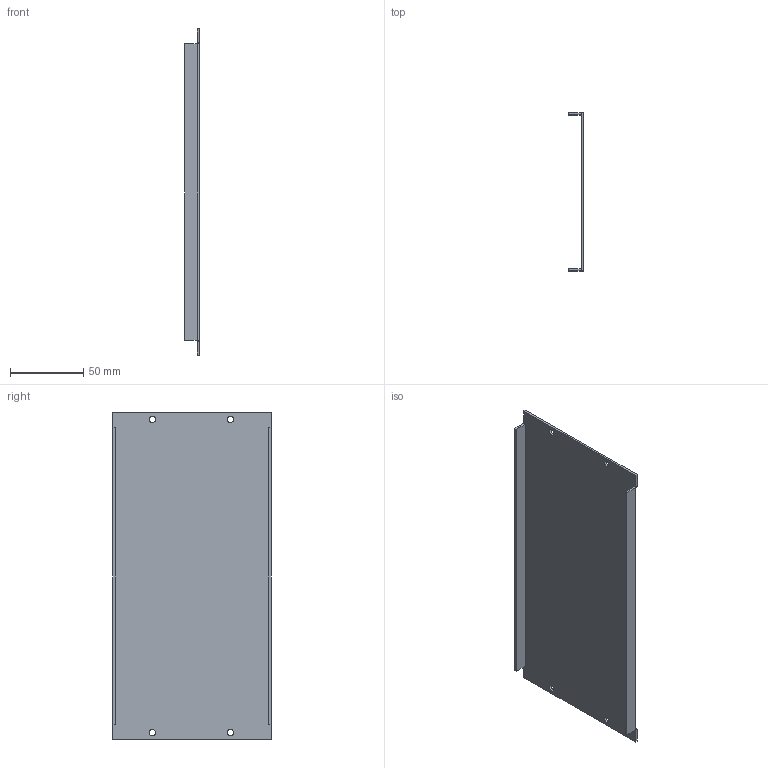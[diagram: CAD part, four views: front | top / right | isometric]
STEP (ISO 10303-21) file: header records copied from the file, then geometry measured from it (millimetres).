
FILE_DESCRIPTION(('CATIA V5 STEP Exchange'),'2;1');
FILE_NAME('C:\Users\Mike\Desktop\blank panels\2MU BLANK PANEL.stp','2018-03-03T21:32:52+00:00',('none'),('none'),'CATIA Version 5 Release 20 GA (IN-10)','CATIA V5 STEP AP214','none');
FILE_SCHEMA(('AUTOMOTIVE_DESIGN { 1 0 10303 214 1 1 1 1 }'));
Length unit declared in the file: millimetre
Products named in the file (1): 2MU BLANK PANEL
Bounding box: 10.16 x 107.7 x 222.25 mm (x, y, z)
Volume: 42865.7 mm3; surface area: 55606.5 mm2
Topology: 1 solids, 1 shells, 34 faces, 96 edges, 64 vertices
Faces by surface type: plane 20, cylinder 10, torus 4
Entity records: 1174 total; most frequent: CARTESIAN_POINT 307, ORIENTED_EDGE 192, DIRECTION 132, EDGE_CURVE 96, VECTOR 64, LINE 64, VERTEX_POINT 64, AXIS2_PLACEMENT_3D 42
